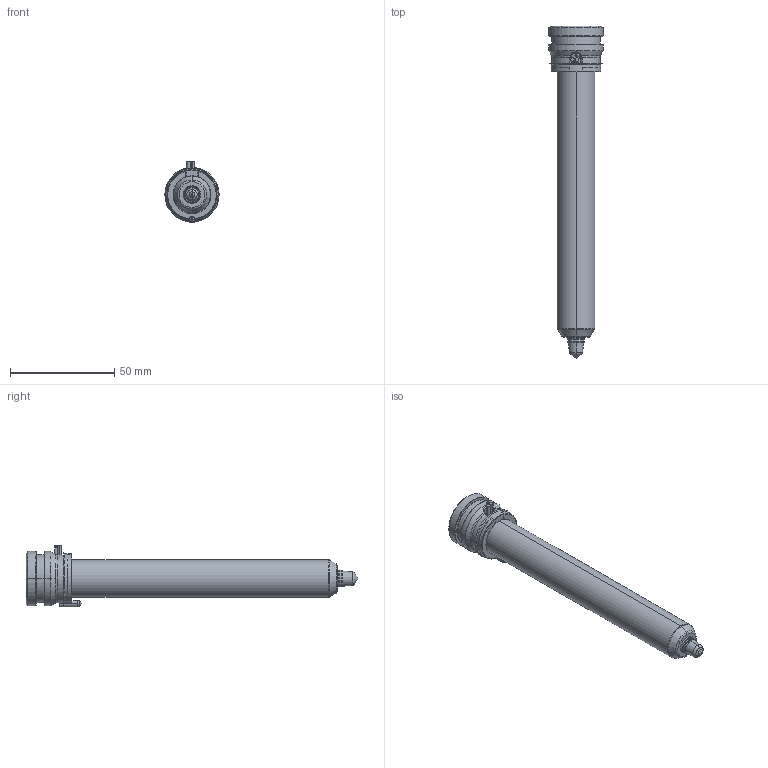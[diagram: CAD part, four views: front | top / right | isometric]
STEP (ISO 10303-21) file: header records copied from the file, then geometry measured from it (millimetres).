
FILE_DESCRIPTION((''),'2;1');
FILE_NAME('TH18141-A-1B50-PK-JG','2023-12-14T',('umhib'),('Thermoplay S.p.A.'),'PRO/ENGINEER BY PARAMETRIC TECHNOLOGY CORPORATION, 2017170','PRO/ENGINEER BY PARAMETRIC TECHNOLOGY CORPORATION, 2017170','');
FILE_SCHEMA(('CONFIG_CONTROL_DESIGN'));
Length unit declared in the file: millimetre
Products named in the file (1): TH18141-A-1B50-PK-JG
Bounding box: 26 x 159 x 29.5 mm (x, y, z)
Volume: 31378.7 mm3; surface area: 22926.4 mm2
Topology: 1 solids, 2 shells, 394 faces, 1026 edges, 637 vertices
Faces by surface type: cylinder 151, plane 85, cone 66, torus 54, bspline 24, sphere 12, extrusion 2
Entity records: 17996 total; most frequent: CARTESIAN_POINT 6173, ORIENTED_EDGE 2028, DIRECTION 2015, EDGE_CURVE 1016, AXIS2_PLACEMENT_3D 808, VERTEX_POINT 637, CIRCLE 439, EDGE_LOOP 414
